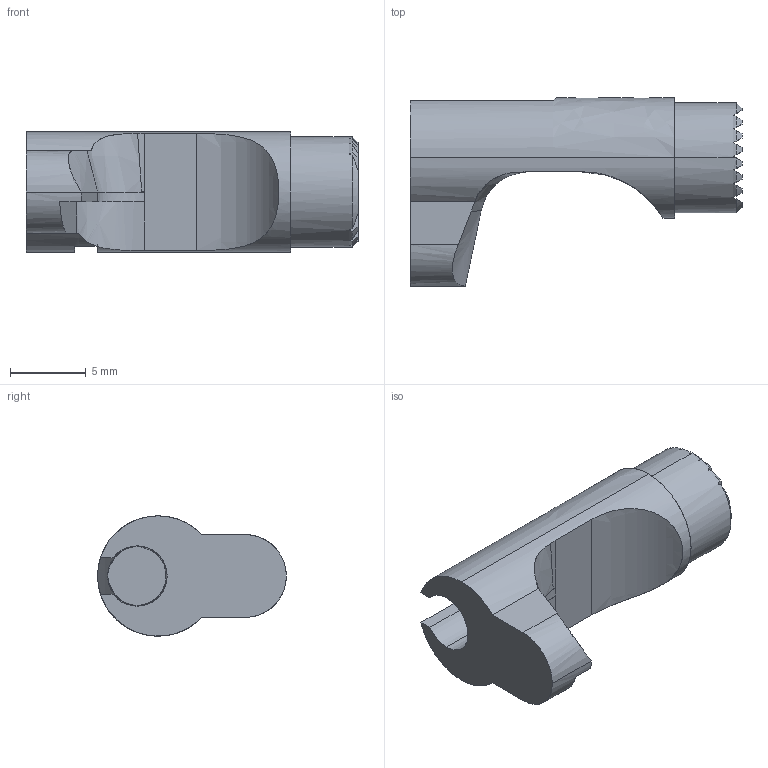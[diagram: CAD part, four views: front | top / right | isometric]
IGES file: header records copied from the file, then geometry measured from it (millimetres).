
Start section: SolidWorks IGES file using analytic representation for surfaces
Global section: file name: \\PSSILO\catalogs\CONTENTCENTRAL\Magazine Catch\Cache\D01C1523-6D65-411A-81CE-DB9712F6ED5F.IGS; native system: SolidWorks 2009; preprocessor: SolidWorks 2009; author: partstream; date: 090731.224742; units: inch
Bounding box: 21.87 x 12.42 x 7.92 mm (x, y, z)
Surface area: 906.2 mm2 (no closed solid volume)
Topology: 0 solids, 0 shells, 73 faces, 796 edges, 796 vertices
Faces by surface type: bspline 40, revolution 33
